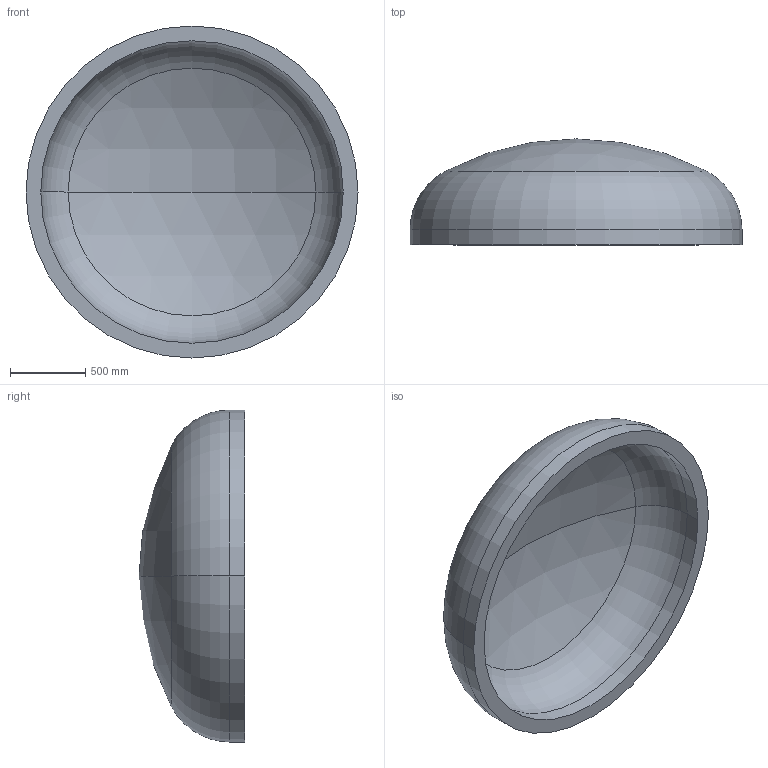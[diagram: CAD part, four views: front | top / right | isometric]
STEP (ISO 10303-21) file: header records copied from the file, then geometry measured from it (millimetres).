
FILE_DESCRIPTION (( 'STEP AP203' ), '1' );
FILE_NAME ('DIN 28013 Korbbogenform_-_Boden DIN 28013 - 2200 x 100 - I - s=98.step', '2016-07-01T14:53:34', ( '' ), ( '' ), 'SwSTEP 2.0', 'SolidWorks 2013', '' );
FILE_SCHEMA (( 'CONFIG_CONTROL_DESIGN' ));
Length unit declared in the file: millimetre
Products named in the file (1): DIN 28013 Korbbogenform_-_Boden DIN 28013 - 2200 x 100 - I - s=98
Bounding box: 2200 x 701.75 x 2200 mm (x, y, z)
Volume: 552185561.6 mm3; surface area: 11936360 mm2
Topology: 1 solids, 1 shells, 13 faces, 24 edges, 14 vertices
Faces by surface type: torus 4, cylinder 4, sphere 4, plane 1
Entity records: 407 total; most frequent: DIRECTION 72, CARTESIAN_POINT 52, ORIENTED_EDGE 48, AXIS2_PLACEMENT_3D 34, EDGE_CURVE 24, CIRCLE 20, VERTEX_POINT 14, EDGE_LOOP 14
